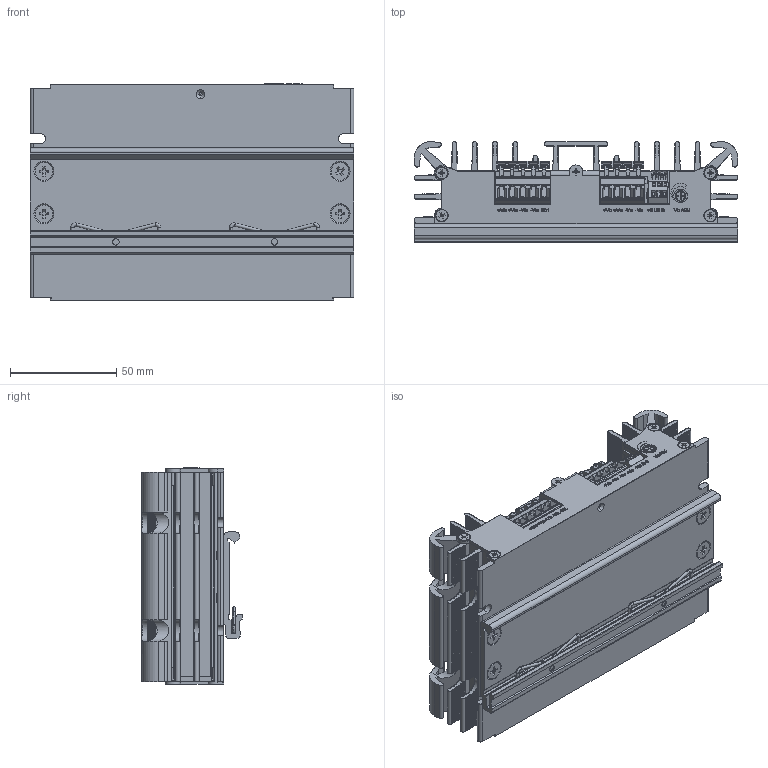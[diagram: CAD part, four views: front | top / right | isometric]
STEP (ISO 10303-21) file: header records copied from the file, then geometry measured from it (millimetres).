
FILE_DESCRIPTION (( 'STEP AP214' ), '1' );
FILE_NAME ('TEQ 300WIR-MK2.STEP', '2018-11-13T08:40:37', ( 'user' ), ( '' ), 'SwSTEP 2.0', 'SolidWorks 2016', '' );
FILE_SCHEMA (( 'AUTOMOTIVE_DESIGN' ));
Length unit declared in the file: millimetre
Products named in the file (3): DC-DC Converter; TEQ 300WIR-MK2; DIN RAIL_VDRP-03
Assembly tree (2 placements, depth 2):
  TEQ 300WIR-MK2
    DC-DC Converter
    DIN RAIL_VDRP-03
Bounding box: 152.43 x 47.32 x 101.92 mm (x, y, z)
Volume: 235428.9 mm3; surface area: 189977.1 mm2
Topology: 4 solids, 8 shells, 4852 faces, 13550 edges, 8835 vertices
Faces by surface type: plane 2447, cylinder 1820, bspline 278, cone 234, torus 73
Entity records: 228019 total; most frequent: CARTESIAN_POINT 49531, ORIENTED_EDGE 27036, DIRECTION 25270, EDGE_CURVE 13518, VERTEX_POINT 8835, AXIS2_PLACEMENT_3D 8493, VECTOR 8284, LINE 8284
